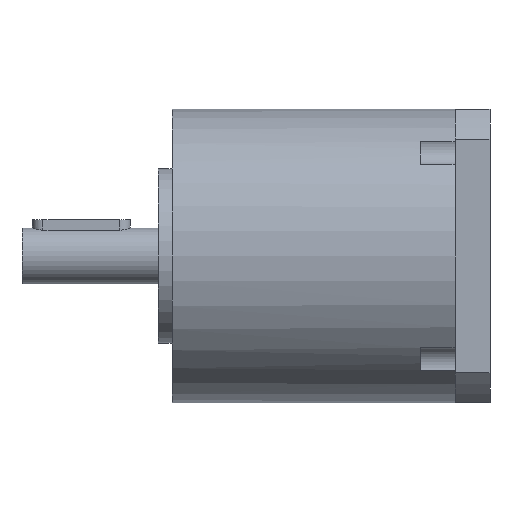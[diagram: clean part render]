
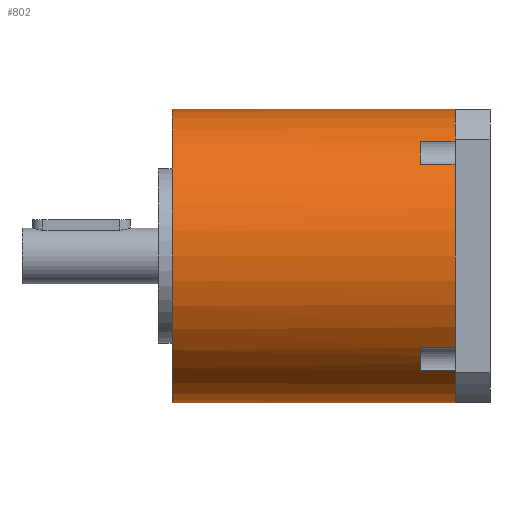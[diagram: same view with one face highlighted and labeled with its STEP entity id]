
A CAD part, left-side view. The second image highlights one B-rep face of the part: STEP entity #802.
In plain terms, the highlighted cylindrical face has radius 21 mm (diameter 42 mm), a partial arc.
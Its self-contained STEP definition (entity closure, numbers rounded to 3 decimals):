
#27 = CIRCLE ( 'NONE', #1267, 21. ) ;
#83 = ORIENTED_EDGE ( 'NONE', *, *, #1901, .T. ) ;
#96 = ORIENTED_EDGE ( 'NONE', *, *, #110, .F. ) ;
#98 = CIRCLE ( 'NONE', #1109, 21. ) ;
#110 = EDGE_CURVE ( 'NONE', #936, #1773, #1590, .T. ) ;
#118 = DIRECTION ( 'NONE',  ( 0., 0., 1. ) ) ;
#247 = CIRCLE ( 'NONE', #1047, 21. ) ;
#278 = VERTEX_POINT ( 'NONE', #1813 ) ;
#289 = CARTESIAN_POINT ( 'NONE',  ( 0., 40.5, -21. ) ) ;
#322 = CARTESIAN_POINT ( 'NONE',  ( -13.156, 5., 16.368 ) ) ;
#333 = CARTESIAN_POINT ( 'NONE',  ( 0., 5., 0. ) ) ;
#343 = CYLINDRICAL_SURFACE ( 'NONE', #1245, 21. ) ;
#353 = ORIENTED_EDGE ( 'NONE', *, *, #561, .F. ) ;
#356 = DIRECTION ( 'NONE',  ( 0., 1., 0. ) ) ;
#362 = DIRECTION ( 'NONE',  ( 0., -1., 0. ) ) ;
#388 = EDGE_CURVE ( 'NONE', #919, #278, #1051, .T. ) ;
#408 = ORIENTED_EDGE ( 'NONE', *, *, #1642, .F. ) ;
#425 = CARTESIAN_POINT ( 'NONE',  ( 0., 0., 21. ) ) ;
#436 = VECTOR ( 'NONE', #711, 1000. ) ;
#437 = VERTEX_POINT ( 'NONE', #425 ) ;
#450 = LINE ( 'NONE', #523, #436 ) ;
#454 = VECTOR ( 'NONE', #1050, 1000. ) ;
#457 = LINE ( 'NONE', #1406, #454 ) ;
#466 = LINE ( 'NONE', #1289, #836 ) ;
#478 = FACE_OUTER_BOUND ( 'NONE', #544, .T. ) ;
#498 = CARTESIAN_POINT ( 'NONE',  ( -16.368, 0., -13.156 ) ) ;
#517 = VERTEX_POINT ( 'NONE', #1315 ) ;
#523 = CARTESIAN_POINT ( 'NONE',  ( -13.156, 2.5, 16.368 ) ) ;
#526 = CARTESIAN_POINT ( 'NONE',  ( 0., 40.5, 21. ) ) ;
#535 = AXIS2_PLACEMENT_3D ( 'NONE', #1653, #716, #1811 ) ;
#544 = EDGE_LOOP ( 'NONE', ( #353, #1386, #83, #627, #1659, #408, #1547, #1934, #755, #1698, #96, #1028, #1921 ) ) ;
#561 = EDGE_CURVE ( 'NONE', #1576, #437, #848, .T. ) ;
#566 = CARTESIAN_POINT ( 'NONE',  ( -13.156, 2.5, -16.368 ) ) ;
#588 = CARTESIAN_POINT ( 'NONE',  ( 0., 0., 0. ) ) ;
#627 = ORIENTED_EDGE ( 'NONE', *, *, #1515, .T. ) ;
#629 = VERTEX_POINT ( 'NONE', #289 ) ;
#643 = CARTESIAN_POINT ( 'NONE',  ( -16.368, 2.5, -13.156 ) ) ;
#656 = DIRECTION ( 'NONE',  ( 0., 1., 0. ) ) ;
#661 = CARTESIAN_POINT ( 'NONE',  ( -16.368, 5., -13.156 ) ) ;
#711 = DIRECTION ( 'NONE',  ( 0., 1., 0. ) ) ;
#712 = AXIS2_PLACEMENT_3D ( 'NONE', #588, #1688, #757 ) ;
#716 = DIRECTION ( 'NONE',  ( 0., -1., 0. ) ) ;
#732 = LINE ( 'NONE', #643, #833 ) ;
#754 = CARTESIAN_POINT ( 'NONE',  ( -16.368, 5., 13.156 ) ) ;
#755 = ORIENTED_EDGE ( 'NONE', *, *, #1926, .T. ) ;
#757 = DIRECTION ( 'NONE',  ( 0., 0., 1. ) ) ;
#774 = CARTESIAN_POINT ( 'NONE',  ( -13.156, 0., -16.368 ) ) ;
#784 = VERTEX_POINT ( 'NONE', #774 ) ;
#802 = ADVANCED_FACE ( 'NONE', ( #478 ), #343, .T. ) ;
#803 = EDGE_CURVE ( 'NONE', #1773, #890, #457, .T. ) ;
#816 = CARTESIAN_POINT ( 'NONE',  ( -13.156, 5., -16.368 ) ) ;
#826 = VECTOR ( 'NONE', #362, 1000. ) ;
#833 = VECTOR ( 'NONE', #1732, 1000. ) ;
#836 = VECTOR ( 'NONE', #966, 1000. ) ;
#848 = LINE ( 'NONE', #526, #826 ) ;
#890 = VERTEX_POINT ( 'NONE', #1157 ) ;
#919 = VERTEX_POINT ( 'NONE', #498 ) ;
#936 = VERTEX_POINT ( 'NONE', #322 ) ;
#938 = LINE ( 'NONE', #566, #1755 ) ;
#966 = DIRECTION ( 'NONE',  ( 0., -1., 0. ) ) ;
#993 = CARTESIAN_POINT ( 'NONE',  ( 0., 0., 0. ) ) ;
#1016 = EDGE_CURVE ( 'NONE', #629, #1576, #98, .T. ) ;
#1020 = AXIS2_PLACEMENT_3D ( 'NONE', #993, #2070, #1162 ) ;
#1028 = ORIENTED_EDGE ( 'NONE', *, *, #1070, .F. ) ;
#1047 = AXIS2_PLACEMENT_3D ( 'NONE', #2042, #1131, #118 ) ;
#1050 = DIRECTION ( 'NONE',  ( 0., -1., 0. ) ) ;
#1051 = CIRCLE ( 'NONE', #712, 21. ) ;
#1070 = EDGE_CURVE ( 'NONE', #1130, #936, #450, .T. ) ;
#1109 = AXIS2_PLACEMENT_3D ( 'NONE', #1335, #356, #1492 ) ;
#1130 = VERTEX_POINT ( 'NONE', #1667 ) ;
#1131 = DIRECTION ( 'NONE',  ( 0., 1., 0. ) ) ;
#1157 = CARTESIAN_POINT ( 'NONE',  ( -16.368, 0., 13.156 ) ) ;
#1162 = DIRECTION ( 'NONE',  ( 0., 0., 1. ) ) ;
#1176 = EDGE_CURVE ( 'NONE', #1903, #784, #938, .T. ) ;
#1245 = AXIS2_PLACEMENT_3D ( 'NONE', #1854, #1840, #1689 ) ;
#1267 = AXIS2_PLACEMENT_3D ( 'NONE', #1602, #656, #1748 ) ;
#1289 = CARTESIAN_POINT ( 'NONE',  ( 0., 40.5, -21. ) ) ;
#1315 = CARTESIAN_POINT ( 'NONE',  ( 0., 0., -21. ) ) ;
#1335 = CARTESIAN_POINT ( 'NONE',  ( 0., 40.5, 0. ) ) ;
#1386 = ORIENTED_EDGE ( 'NONE', *, *, #1016, .F. ) ;
#1391 = EDGE_CURVE ( 'NONE', #919, #1434, #732, .T. ) ;
#1406 = CARTESIAN_POINT ( 'NONE',  ( -16.368, 2.5, 13.156 ) ) ;
#1434 = VERTEX_POINT ( 'NONE', #661 ) ;
#1481 = CIRCLE ( 'NONE', #535, 21. ) ;
#1484 = DIRECTION ( 'NONE',  ( 0., -1., 0. ) ) ;
#1492 = DIRECTION ( 'NONE',  ( 0., 0., 1. ) ) ;
#1515 = EDGE_CURVE ( 'NONE', #517, #784, #1867, .T. ) ;
#1547 = ORIENTED_EDGE ( 'NONE', *, *, #1391, .F. ) ;
#1576 = VERTEX_POINT ( 'NONE', #1942 ) ;
#1590 = CIRCLE ( 'NONE', #1730, 21. ) ;
#1602 = CARTESIAN_POINT ( 'NONE',  ( 0., 0., 0. ) ) ;
#1642 = EDGE_CURVE ( 'NONE', #1434, #1903, #1481, .T. ) ;
#1653 = CARTESIAN_POINT ( 'NONE',  ( 0., 5., 0. ) ) ;
#1659 = ORIENTED_EDGE ( 'NONE', *, *, #1176, .F. ) ;
#1667 = CARTESIAN_POINT ( 'NONE',  ( -13.156, 0., 16.368 ) ) ;
#1668 = DIRECTION ( 'NONE',  ( 0., -1., 0. ) ) ;
#1688 = DIRECTION ( 'NONE',  ( 0., 1., 0. ) ) ;
#1689 = DIRECTION ( 'NONE',  ( 0., 0., -1. ) ) ;
#1698 = ORIENTED_EDGE ( 'NONE', *, *, #803, .F. ) ;
#1730 = AXIS2_PLACEMENT_3D ( 'NONE', #333, #1484, #2010 ) ;
#1732 = DIRECTION ( 'NONE',  ( 0., 1., 0. ) ) ;
#1748 = DIRECTION ( 'NONE',  ( 0., 0., 1. ) ) ;
#1755 = VECTOR ( 'NONE', #1668, 1000. ) ;
#1773 = VERTEX_POINT ( 'NONE', #754 ) ;
#1811 = DIRECTION ( 'NONE',  ( 0., 0., -1. ) ) ;
#1813 = CARTESIAN_POINT ( 'NONE',  ( -21., 0., 0. ) ) ;
#1840 = DIRECTION ( 'NONE',  ( 0., -1., 0. ) ) ;
#1854 = CARTESIAN_POINT ( 'NONE',  ( 0., 40.5, 0. ) ) ;
#1867 = CIRCLE ( 'NONE', #1020, 21. ) ;
#1893 = EDGE_CURVE ( 'NONE', #1130, #437, #247, .T. ) ;
#1901 = EDGE_CURVE ( 'NONE', #629, #517, #466, .T. ) ;
#1903 = VERTEX_POINT ( 'NONE', #816 ) ;
#1921 = ORIENTED_EDGE ( 'NONE', *, *, #1893, .T. ) ;
#1926 = EDGE_CURVE ( 'NONE', #278, #890, #27, .T. ) ;
#1934 = ORIENTED_EDGE ( 'NONE', *, *, #388, .T. ) ;
#1942 = CARTESIAN_POINT ( 'NONE',  ( 0., 40.5, 21. ) ) ;
#2010 = DIRECTION ( 'NONE',  ( 0., 0., -1. ) ) ;
#2042 = CARTESIAN_POINT ( 'NONE',  ( 0., 0., 0. ) ) ;
#2070 = DIRECTION ( 'NONE',  ( 0., 1., 0. ) ) ;
